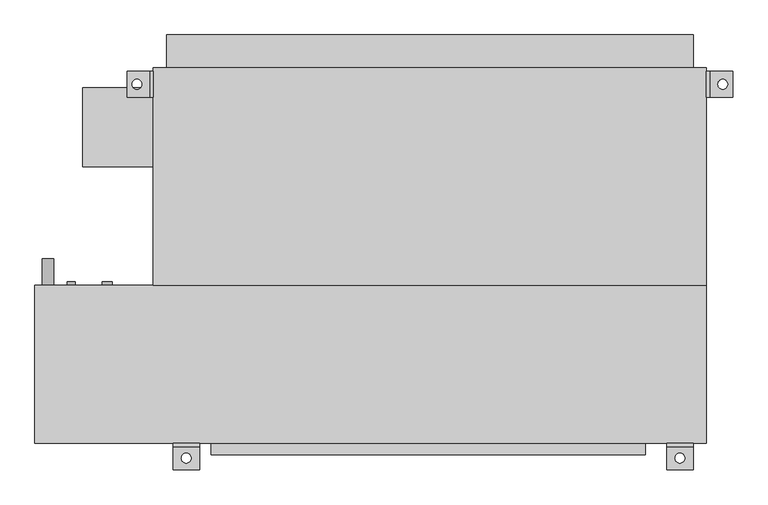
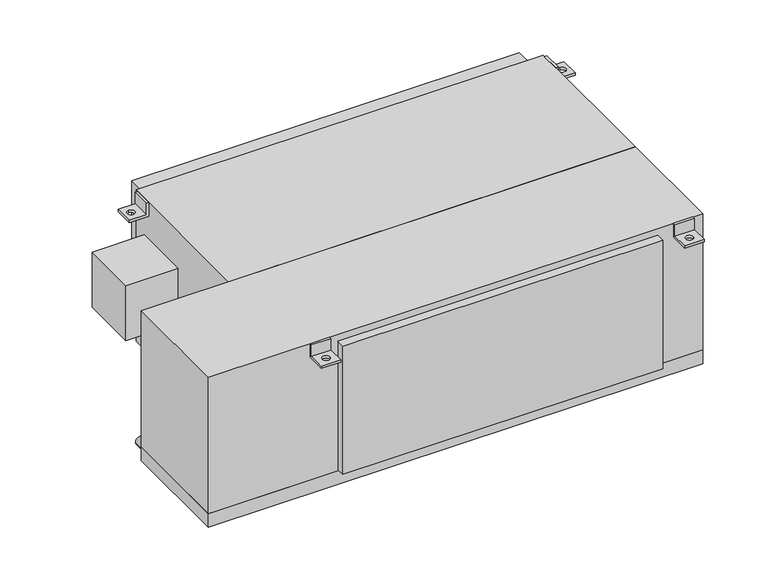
"""IFC4 building model written with IfcOpenShell, lengths in millimetres: proxy geometry, Concealed_High_Capacity_Horizontal_Fan_Coil_Unit_With_Plenum_-_42DCA_-_CARRIER_-_4-Pipe_ValveEnclosure_LH_2022 : Size 14 - 277v/60Hz/1Ph - 6/2 Coil."""

from ifc_helpers import new_model, si_unit, point, frame, frame_2d, origin, place, context, project, spatial, polyline, circle_curve, trimmed, segment, composite_curve, outline, extrude, source, transform, mapped, element, save
from ifc_brep_helpers import plane_surface, revolved_surface, advanced_brep


def mechanical_equipment_1f889669(model_context):
    return source(origin(), model_context, "Body", "SolidModel", [
        advanced_brep(
        [(660.4, -390.525, 0.0), (660.4, -396.875, 0.0), (660.4, -396.875, -31.75), (660.4, -441.325, -31.75), (660.4, -441.325, -38.1), (660.4, -390.525, -38.1), (609.6, -390.525, 0.0), (609.6, -390.525, -38.1), (609.6, -441.325, -38.1), (609.6, -441.325, -31.75), (609.6, -396.875, -31.75), (609.6, -396.875, 0.0), (625.475, -419.1, -31.75), (644.525, -419.1, -31.75), (644.525, -419.1, -38.1), (625.475, -419.1, -38.1)],
        [
            (0, 1),
            (1, 2),
            (2, 3),
            (3, 4),
            (4, 5),
            (5, 0),
            (6, 7),
            (7, 8),
            (8, 9),
            (9, 10),
            (10, 11),
            (11, 6),
            (0, 6),
            (11, 1),
            (10, 2),
            (9, 3),
            (12, 13, circle_curve(frame((635.0, -419.1, -31.75), z_axis=(0.0, 0.0, -1.0), x_axis=(1.0, 0.0, 0.0)), 9.525)),
            (13, 12, circle_curve(frame((635.0, -419.1, -31.75), z_axis=(0.0, 0.0, -1.0), x_axis=(1.0, 0.0, 0.0)), 9.525)),
            (8, 4),
            (7, 5),
            (14, 15, circle_curve(frame((635.0, -419.1, -38.1), z_axis=(0.0, 0.0, 1.0), x_axis=(1.0, 0.0, 0.0)), 9.525)),
            (15, 14, circle_curve(frame((635.0, -419.1, -38.1), z_axis=(0.0, 0.0, 1.0), x_axis=(1.0, 0.0, 0.0)), 9.525)),
            (12, 15),
            (14, 13),
        ],
        [
            plane_surface(frame((660.4, -396.875, 0.0), z_axis=(1.0, 0.0, 0.0), x_axis=(0.0, -1.0, 0.0))),
            plane_surface(frame((609.6, -396.875, 0.0), z_axis=(-1.0, 0.0, 0.0), x_axis=(0.0, 1.0, 0.0))),
            plane_surface(frame((660.4, -390.525, 0.0), z_axis=(0.0, 0.0, 1.0), x_axis=(-1.0, 0.0, 0.0))),
            plane_surface(frame((660.4, -396.875, 0.0), z_axis=(0.0, -1.0, 0.0), x_axis=(-1.0, 0.0, 0.0))),
            plane_surface(frame((660.4, -396.875, -31.75), z_axis=(0.0, 0.0, 1.0), x_axis=(-1.0, 0.0, 0.0))),
            plane_surface(frame((660.4, -441.325, -31.75), z_axis=(0.0, -1.0, 0.0), x_axis=(-1.0, 0.0, 0.0))),
            plane_surface(frame((660.4, -441.325, -38.1), z_axis=(0.0, 0.0, -1.0), x_axis=(-1.0, 0.0, 0.0))),
            plane_surface(frame((660.4, -390.525, -38.1), z_axis=(0.0, 1.0, 0.0), x_axis=(-1.0, 0.0, 0.0))),
            revolved_surface(polyline([(644.525, -419.1, -38.1), (644.525, -419.1, -31.75)]), (635.0, -419.1, -31.75), (0.0, 0.0, -1.0)),
        ],
        [
            (0, [[1, 2, 3, 4, 5, 6]]),
            (1, [[7, 8, 9, 10, 11, 12]]),
            (2, [[-1, 13, -12, 14]]),
            (3, [[-2, -14, -11, 15]]),
            (4, [[-3, -15, -10, 16], [17, 18]]),
            (5, [[-4, -16, -9, 19]]),
            (6, [[-5, -19, -8, 20], [21, 22]]),
            (7, [[-6, -20, -7, -13]]),
            (8, [[23, -21, 24, -17]]),
            (8, [[-23, -18, -24, -22]]),
        ],
    ),
        advanced_brep(
        [(-292.1, -390.525, -38.1), (-292.1, -390.525, 0.0), (-292.1, -396.875, 0.0), (-292.1, -396.875, -31.75), (-292.1, -441.325, -31.75), (-292.1, -441.325, -38.1), (-342.9, -390.525, -38.1), (-342.9, -441.325, -38.1), (-342.9, -441.325, -31.75), (-342.9, -396.875, -31.75), (-342.9, -396.875, 0.0), (-342.9, -390.525, 0.0), (-327.025, -419.1, -31.75), (-307.975, -419.1, -31.75), (-307.975, -419.1, -38.1), (-327.025, -419.1, -38.1)],
        [
            (0, 1),
            (1, 2),
            (2, 3),
            (3, 4),
            (4, 5),
            (5, 0),
            (6, 7),
            (7, 8),
            (8, 9),
            (9, 10),
            (10, 11),
            (11, 6),
            (0, 6),
            (11, 1),
            (10, 2),
            (9, 3),
            (8, 4),
            (12, 13, circle_curve(frame((-317.5, -419.1, -31.75), z_axis=(0.0, 0.0, -1.0), x_axis=(1.0, 0.0, 0.0)), 9.525)),
            (13, 12, circle_curve(frame((-317.5, -419.1, -31.75), z_axis=(0.0, 0.0, -1.0), x_axis=(1.0, 0.0, 0.0)), 9.525)),
            (7, 5),
            (14, 15, circle_curve(frame((-317.5, -419.1, -38.1), z_axis=(0.0, 0.0, 1.0), x_axis=(1.0, 0.0, 0.0)), 9.525)),
            (15, 14, circle_curve(frame((-317.5, -419.1, -38.1), z_axis=(0.0, 0.0, 1.0), x_axis=(1.0, 0.0, 0.0)), 9.525)),
            (12, 15),
            (14, 13),
        ],
        [
            plane_surface(frame((-292.1, -390.525, -38.1), z_axis=(1.0, 0.0, 0.0), x_axis=(0.0, 0.0, 1.0))),
            plane_surface(frame((-342.9, -390.525, -38.1), z_axis=(-1.0, 0.0, 0.0), x_axis=(0.0, 0.0, -1.0))),
            plane_surface(frame((-292.1, -390.525, -38.1), z_axis=(0.0, 1.0, 0.0), x_axis=(-1.0, 0.0, 0.0))),
            plane_surface(frame((-292.1, -390.525, 0.0), z_axis=(0.0, 0.0, 1.0), x_axis=(-1.0, 0.0, 0.0))),
            plane_surface(frame((-292.1, -396.875, 0.0), z_axis=(0.0, -1.0, 0.0), x_axis=(-1.0, 0.0, 0.0))),
            plane_surface(frame((-292.1, -396.875, -31.75), z_axis=(0.0, 0.0, 1.0), x_axis=(-1.0, 0.0, 0.0))),
            plane_surface(frame((-292.1, -441.325, -31.75), z_axis=(0.0, -1.0, 0.0), x_axis=(-1.0, 0.0, 0.0))),
            plane_surface(frame((-292.1, -441.325, -38.1), z_axis=(0.0, 0.0, -1.0), x_axis=(-1.0, 0.0, 0.0))),
            revolved_surface(polyline([(-307.975, -419.1, -38.1), (-307.975, -419.1, -31.75)]), (-317.5, -419.1, -31.75), (0.0, 0.0, -1.0)),
        ],
        [
            (0, [[1, 2, 3, 4, 5, 6]]),
            (1, [[7, 8, 9, 10, 11, 12]]),
            (2, [[-1, 13, -12, 14]]),
            (3, [[-2, -14, -11, 15]]),
            (4, [[-3, -15, -10, 16]]),
            (5, [[-4, -16, -9, 17], [18, 19]]),
            (6, [[-5, -17, -8, 20]]),
            (7, [[-6, -20, -7, -13], [21, 22]]),
            (8, [[23, -21, 24, -18]]),
            (8, [[-23, -19, -24, -22]]),
        ],
    ),
        extrude(outline(composite_curve([segment(trimmed(circle_curve(frame_2d((-400.05, -584.2)), 11.1125), [point((-400.05, -595.3125))], [point((-400.05, -573.0875))], False, "CARTESIAN"), True, "CONTINUOUS"), segment(trimmed(circle_curve(frame_2d((-400.05, -584.2)), 11.1125), [point((-400.05, -573.0875))], [point((-400.05, -595.3125))], False, "CARTESIAN"), True, "CONTINUOUS")], self_intersect=False)), frame((0.0, -85.725, 0.0), z_axis=(0.0, 1.0, 0.0), x_axis=(0.0, 0.0, 1.0)), (0.0, 0.0, 1.0), 50.8),
        extrude(outline(composite_curve([segment(trimmed(circle_curve(frame_2d((-44.45, -469.9)), 9.525), [point((-44.45, -479.425))], [point((-44.45, -460.375))], False, "CARTESIAN"), True, "CONTINUOUS"), segment(trimmed(circle_curve(frame_2d((-44.45, -469.9)), 9.525), [point((-44.45, -460.375))], [point((-44.45, -479.425))], False, "CARTESIAN"), True, "CONTINUOUS")], self_intersect=False)), frame((0.0, -85.725, 0.0), z_axis=(0.0, 1.0, 0.0), x_axis=(0.0, 0.0, 1.0)), (0.0, 0.0, 1.0), 6.35),
        extrude(outline(composite_curve([segment(trimmed(circle_curve(frame_2d((-276.225, -469.9)), 9.525), [point((-276.225, -479.425))], [point((-276.225, -460.375))], False, "CARTESIAN"), True, "CONTINUOUS"), segment(trimmed(circle_curve(frame_2d((-276.225, -469.9)), 9.525), [point((-276.225, -460.375))], [point((-276.225, -479.425))], False, "CARTESIAN"), True, "CONTINUOUS")], self_intersect=False)), frame((0.0, -85.725, 0.0), z_axis=(0.0, 1.0, 0.0), x_axis=(0.0, 0.0, 1.0)), (0.0, 0.0, 1.0), 6.35),
        extrude(outline(composite_curve([segment(trimmed(circle_curve(frame_2d((-69.85, -539.75)), 7.9375), [point((-69.85, -547.6875))], [point((-69.85, -531.8125))], False, "CARTESIAN"), True, "CONTINUOUS"), segment(trimmed(circle_curve(frame_2d((-69.85, -539.75)), 7.9375), [point((-69.85, -531.8125))], [point((-69.85, -547.6875))], False, "CARTESIAN"), True, "CONTINUOUS")], self_intersect=False)), frame((0.0, -85.725, 0.0), z_axis=(0.0, 1.0, 0.0), x_axis=(0.0, 0.0, 1.0)), (0.0, 0.0, 1.0), 6.35),
        extrude(outline(composite_curve([segment(trimmed(circle_curve(frame_2d((-285.75, -539.75)), 7.9375), [point((-285.75, -547.6875))], [point((-285.75, -531.8125))], False, "CARTESIAN"), True, "CONTINUOUS"), segment(trimmed(circle_curve(frame_2d((-285.75, -539.75)), 7.9375), [point((-285.75, -531.8125))], [point((-285.75, -547.6875))], False, "CARTESIAN"), True, "CONTINUOUS")], self_intersect=False)), frame((0.0, -85.725, 0.0), z_axis=(0.0, 1.0, 0.0), x_axis=(0.0, 0.0, 1.0)), (0.0, 0.0, 1.0), 6.35),
        advanced_brep(
        [(-381.0, 327.025, -38.1), (-431.8, 327.025, -38.1), (-431.8, 327.025, -31.75), (-387.35, 327.025, -31.75), (-387.35, 327.025, 0.0), (-381.0, 327.025, 0.0), (-381.0, 276.225, -38.1), (-381.0, 276.225, 0.0), (-387.35, 276.225, 0.0), (-387.35, 276.225, -31.75), (-431.8, 276.225, -31.75), (-431.8, 276.225, -38.1), (-412.75, 292.1, -38.1), (-412.75, 311.15, -38.1), (-412.75, 311.15, -31.75), (-412.75, 292.1, -31.75)],
        [
            (0, 1),
            (1, 2),
            (2, 3),
            (3, 4),
            (4, 5),
            (5, 0),
            (6, 7),
            (7, 8),
            (8, 9),
            (9, 10),
            (10, 11),
            (11, 6),
            (0, 6),
            (11, 1),
            (12, 13, circle_curve(frame((-412.75, 301.625, -38.1), z_axis=(0.0, 0.0, 1.0), x_axis=(0.0, -1.0, 0.0)), 9.525)),
            (13, 12, circle_curve(frame((-412.75, 301.625, -38.1), z_axis=(0.0, 0.0, 1.0), x_axis=(0.0, -1.0, 0.0)), 9.525)),
            (10, 2),
            (9, 3),
            (14, 15, circle_curve(frame((-412.75, 301.625, -31.75), z_axis=(0.0, 0.0, -1.0), x_axis=(0.0, -1.0, 0.0)), 9.525)),
            (15, 14, circle_curve(frame((-412.75, 301.625, -31.75), z_axis=(0.0, 0.0, -1.0), x_axis=(0.0, -1.0, 0.0)), 9.525)),
            (8, 4),
            (7, 5),
            (14, 13),
            (12, 15),
        ],
        [
            plane_surface(frame((-381.0, 327.025, -38.1), z_axis=(0.0, 1.0, 0.0), x_axis=(-1.0, 0.0, 0.0))),
            plane_surface(frame((-381.0, 276.225, -38.1), z_axis=(0.0, -1.0, 0.0), x_axis=(1.0, 0.0, 0.0))),
            plane_surface(frame((-381.0, 327.025, -38.1), z_axis=(0.0, 0.0, -1.0), x_axis=(0.0, -1.0, 0.0))),
            plane_surface(frame((-431.8, 327.025, -38.1), z_axis=(-1.0, 0.0, 0.0), x_axis=(0.0, -1.0, 0.0))),
            plane_surface(frame((-431.8, 327.025, -31.75), z_axis=(0.0, 0.0, 1.0), x_axis=(0.0, -1.0, 0.0))),
            plane_surface(frame((-387.35, 327.025, -31.75), z_axis=(-1.0, 0.0, 0.0), x_axis=(0.0, -1.0, 0.0))),
            plane_surface(frame((-387.35, 327.025, 0.0), z_axis=(0.0, 0.0, 1.0), x_axis=(0.0, -1.0, 0.0))),
            plane_surface(frame((-381.0, 327.025, 0.0), z_axis=(1.0, 0.0, 0.0), x_axis=(0.0, -1.0, 0.0))),
            revolved_surface(polyline([(-412.75, 292.1, -38.1), (-412.75, 292.1, -31.75)]), (-412.75, 301.625, -31.75), (0.0, 0.0, -1.0)),
        ],
        [
            (0, [[1, 2, 3, 4, 5, 6]]),
            (1, [[7, 8, 9, 10, 11, 12]]),
            (2, [[-1, 13, -12, 14], [15, 16]]),
            (3, [[-2, -14, -11, 17]]),
            (4, [[-3, -17, -10, 18], [19, 20]]),
            (5, [[-4, -18, -9, 21]]),
            (6, [[-5, -21, -8, 22]]),
            (7, [[-6, -22, -7, -13]]),
            (8, [[23, -15, 24, -19]]),
            (8, [[-23, -20, -24, -16]]),
        ],
    ),
        advanced_brep(
        [(685.8, 327.025, -38.1), (685.8, 327.025, 0.0), (692.15, 327.025, 0.0), (692.15, 327.025, -31.75), (736.6, 327.025, -31.75), (736.6, 327.025, -38.1), (685.8, 276.225, -38.1), (736.6, 276.225, -38.1), (736.6, 276.225, -31.75), (692.15, 276.225, -31.75), (692.15, 276.225, 0.0), (685.8, 276.225, 0.0), (717.55, 311.15, -31.75), (717.55, 292.1, -31.75), (717.55, 292.1, -38.1), (717.55, 311.15, -38.1)],
        [
            (0, 1),
            (1, 2),
            (2, 3),
            (3, 4),
            (4, 5),
            (5, 0),
            (6, 7),
            (7, 8),
            (8, 9),
            (9, 10),
            (10, 11),
            (11, 6),
            (0, 6),
            (11, 1),
            (10, 2),
            (9, 3),
            (8, 4),
            (12, 13, circle_curve(frame((717.55, 301.625, -31.75), z_axis=(0.0, 0.0, -1.0), x_axis=(0.0, -1.0, 0.0)), 9.525)),
            (13, 12, circle_curve(frame((717.55, 301.625, -31.75), z_axis=(0.0, 0.0, -1.0), x_axis=(0.0, -1.0, 0.0)), 9.525)),
            (7, 5),
            (14, 15, circle_curve(frame((717.55, 301.625, -38.1), z_axis=(0.0, 0.0, 1.0), x_axis=(0.0, -1.0, 0.0)), 9.525)),
            (15, 14, circle_curve(frame((717.55, 301.625, -38.1), z_axis=(0.0, 0.0, 1.0), x_axis=(0.0, -1.0, 0.0)), 9.525)),
            (12, 15),
            (14, 13),
        ],
        [
            plane_surface(frame((-381.0, 327.025, -38.1), z_axis=(0.0, 1.0, 0.0), x_axis=(-1.0, 0.0, 0.0))),
            plane_surface(frame((-381.0, 276.225, -38.1), z_axis=(0.0, -1.0, 0.0), x_axis=(1.0, 0.0, 0.0))),
            plane_surface(frame((685.8, 327.025, -38.1), z_axis=(-1.0, 0.0, 0.0), x_axis=(0.0, -1.0, 0.0))),
            plane_surface(frame((685.8, 327.025, 0.0), z_axis=(0.0, 0.0, 1.0), x_axis=(0.0, -1.0, 0.0))),
            plane_surface(frame((692.15, 327.025, 0.0), z_axis=(1.0, 0.0, 0.0), x_axis=(0.0, -1.0, 0.0))),
            plane_surface(frame((692.15, 327.025, -31.75), z_axis=(0.0, 0.0, 1.0), x_axis=(0.0, -1.0, 0.0))),
            plane_surface(frame((736.6, 327.025, -31.75), z_axis=(1.0, 0.0, 0.0), x_axis=(0.0, -1.0, 0.0))),
            plane_surface(frame((736.6, 327.025, -38.1), z_axis=(0.0, 0.0, -1.0), x_axis=(0.0, -1.0, 0.0))),
            revolved_surface(polyline([(717.55, 292.1, -38.1), (717.55, 292.1, -31.75)]), (717.55, 301.625, -31.75), (0.0, 0.0, -1.0)),
        ],
        [
            (0, [[1, 2, 3, 4, 5, 6]]),
            (1, [[7, 8, 9, 10, 11, 12]]),
            (2, [[-1, 13, -12, 14]]),
            (3, [[-2, -14, -11, 15]]),
            (4, [[-3, -15, -10, 16]]),
            (5, [[-4, -16, -9, 17], [18, 19]]),
            (6, [[-5, -17, -8, 20]]),
            (7, [[-6, -20, -7, -13], [21, 22]]),
            (8, [[23, -21, 24, -18]]),
            (8, [[-23, -19, -24, -22]]),
        ],
    ),
        extrude(outline(polyline([(-355.6, 396.875), (660.4, 396.875), (660.4, 333.375), (-355.6, 333.375), (-355.6, 396.875)])), frame((0.0, 0.0, -377.825), z_axis=(0.0, 0.0, 1.0), x_axis=(1.0, 0.0, 0.0)), (0.0, 0.0, 1.0), 355.6),
        extrude(outline(polyline([(-517.525, 142.875), (-517.525, 295.275), (-381.0, 295.275), (-381.0, 142.875), (-517.525, 142.875)])), frame((0.0, 0.0, -254.0), z_axis=(0.0, 0.0, 1.0), x_axis=(1.0, 0.0, 0.0)), (0.0, 0.0, 1.0), 152.4),
        extrude(outline(polyline([(568.325, -412.75), (-269.875, -412.75), (-269.875, -390.525), (568.325, -390.525), (568.325, -412.75)])), frame((0.0, 0.0, -374.65), z_axis=(0.0, 0.0, 1.0), x_axis=(1.0, 0.0, 0.0)), (0.0, 0.0, 1.0), 355.6),
        extrude(outline(polyline([(685.8, -85.725), (-381.0, -85.725), (-381.0, 333.375), (685.8, 333.375), (685.8, -85.725)])), frame((0.0, 0.0, -419.1), z_axis=(0.0, 0.0, 1.0), x_axis=(1.0, 0.0, 0.0)), (0.0, 0.0, 1.0), 419.1),
        extrude(outline(polyline([(685.8, -85.725), (685.8, -390.525), (-609.6, -390.525), (-609.6, -85.725), (685.8, -85.725)])), frame((0.0, 0.0, -377.825), z_axis=(0.0, 0.0, 1.0), x_axis=(1.0, 0.0, 0.0)), (0.0, 0.0, 1.0), 377.825),
        extrude(outline(polyline([(685.8, -85.725), (685.8, -390.525), (-609.6, -390.525), (-609.6, -85.725), (685.8, -85.725)])), frame((0.0, 0.0, -415.925), z_axis=(0.0, 0.0, 1.0), x_axis=(1.0, 0.0, 0.0)), (0.0, 0.0, 1.0), 38.1),
    ])


if __name__ == "__main__":
    model = new_model("IFC4")
    model_context = context("Model", 3, world=origin())
    ifc_project = project(units=[si_unit("LENGTHUNIT", "METRE", prefix="MILLI")], contexts=[model_context])
    site = spatial("IfcSite", under=ifc_project)
    building = spatial("IfcBuilding", under=site)
    placement = place(None, origin())
    mechanical_equipment_shape = mechanical_equipment_1f889669(model_context)
    element("IfcBuildingElementProxy", 1, Name="Concealed_High_Capacity_Horizontal_Fan_Coil_Unit_With_Plenum_-_42DCA_-_CARRIER_-_4-Pipe_ValveEnclosure_LH_2022 : Size 14 - 277v/60Hz/1Ph - 6/2 Coil", ObjectType="Concealed_High_Capacity_Horizontal_Fan_Coil_Unit_With_Plenum_-_42DCA_-_CARRIER_-_4-Pipe_ValveEnclosure_LH_2022 : Size 14 - 277v/60Hz/1Ph - 6/2 Coil", at=placement, inside=building, context=model_context, shape_type="MappedRepresentation", body=[
        mapped(mechanical_equipment_shape, transform((0.0, 0.0, 0.0), x_axis=(1.0, 0.0, 0.0), y_axis=(0.0, 1.0, 0.0), z_axis=(0.0, 0.0, 1.0))),
    ])
    save(model, "model.ifc")
